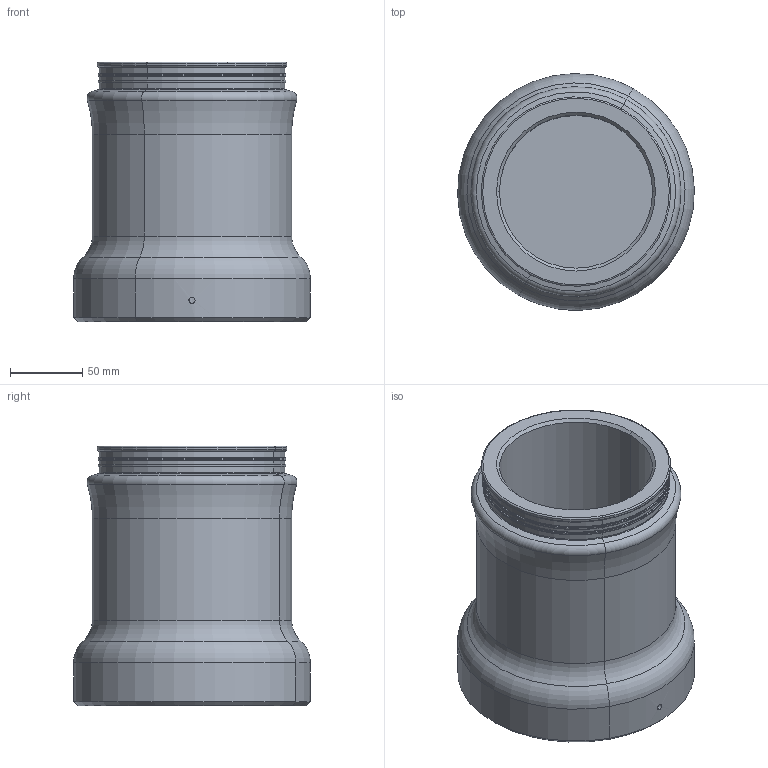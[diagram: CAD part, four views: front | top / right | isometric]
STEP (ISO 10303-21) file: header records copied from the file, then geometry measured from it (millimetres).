
FILE_DESCRIPTION(('CATIA V5 STEP Exchange'),'2;1');
FILE_NAME('G:\够快云库\系统集成开发部\1.部门成员\孙国\ECAS集成\STP\991.1010.06_V1-20210125 空气弹簧下座.stp','2021-01-26T08:56:51+00:00',('none'),('none'),'CATIA Version 5 Release 21 GA (IN-10)','CATIA V5 STEP AP203','none');
FILE_SCHEMA(('CONFIG_CONTROL_DESIGN'));
Length unit declared in the file: millimetre
Products named in the file (1): 991.1010.06_V1
Bounding box: 163.95 x 163.98 x 180 mm (x, y, z)
Volume: 1409924.6 mm3; surface area: 179252.1 mm2
Topology: 1 solids, 1 shells, 64 faces, 132 edges, 74 vertices
Faces by surface type: cylinder 24, torus 22, cone 10, plane 8
Entity records: 1552 total; most frequent: CARTESIAN_POINT 289, ORIENTED_EDGE 256, DIRECTION 208, AXIS2_PLACEMENT_3D 133, EDGE_CURVE 128, CIRCLE 90, EDGE_LOOP 74, VERTEX_POINT 74
